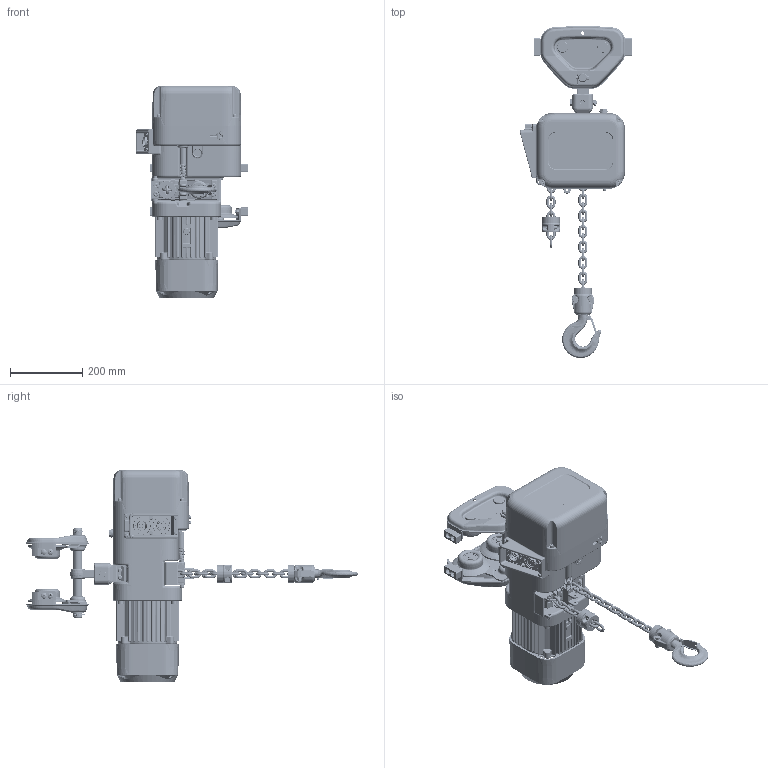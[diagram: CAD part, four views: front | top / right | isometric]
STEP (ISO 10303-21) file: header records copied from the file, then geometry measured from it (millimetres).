
FILE_DESCRIPTION (( 'STEP AP214' ), '1' );
FILE_NAME ('NER2P010L.STEP', '2026-08-04T17:58:20', ( '' ), ( '' ), 'SwSTEP 2.0', 'SolidWorks 2026', '' );
FILE_SCHEMA (( 'AUTOMOTIVE_DESIGN' ));
Length unit declared in the file: millimetre
Products named in the file (71): T7GA0109141; T7AB101010; ER2DS9103; T6G800010P; T7GB004010; J1WS011-20080_Rectangular section spring washer BS 4464 - 16 (Type B); ER2CS9186; 9012711_9012711; M6F554010; PTS2010 SO1753951_5" WITH EXTENDED BUMPERS; T6GA0109113; ER2DS9101; ER1CS9032; 9091296_9091296; T7GA0105112; ER1DS1041; ER2DS9015; J1BG10604040_J1BG10604040; 9009423_9009423; ER2BHM10S9A5; ES127005S; ER2DS9337; T7G117010; ER2DL9105; ER2DS9104_ER2DS9104; MS561010; ER2CS9107_ER2CS9107; ER2DS9338; ER1BS9135; LCER2010NP (SHAPED); J1BY9-0803022_B18.2.3.1M - Hex cap screw, M8 x 1.25 x 30 --30C; T6GA0109103; ER2DS1002; M8 X 30 MACHINE SCREW_M8 X 30 MACHINE SCREW; T7GA0109142; ER2DS9331; ER2CS9357; ER1DS9053; J1BG10601212_B18.3.1M - 6 x 1.0 x 12 Hex SHCS -- 12CHX; LCER2010NP_18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
Assembly tree (153 placements, depth 4):
  NER2P010L
    ER2DS9104_ER2DS9104
    ER2DS9101
    ER2DS9103
    ER2DS1011
      ER2DS2015
        ER2DS9015  x2
        J1BY9-0803022_B18.2.3.1M - Hex cap screw, M8 x 1.25 x 30 --30C  x2
        J1WS011-20080_Rectangular section spring washer BS 4464 - 16 (Type B)  x2
        J1NA001-20080_B18.2.4.1M - Hex nut, Style 1,  M8 x 1.25 --D-C  x2
      ER2DS9011
      ER2DS1002
    ER2DS9331
    ER2DS9337
    ER2DS9338
    ER2CS9357
    ER2CS9121  x2
    ER1DS9053  x2
    ER1DS1041
    ER2CS9186
    ER2CS9123
    LCER2010NP_18
      LCER2010NP  x18
    ER2CS9511
    ER2CS2564
    ER2CS2523
    ES127005S
    ER1BS9135
    E3S112003  x2
    E3S111003  x2
    9091296_9091296  x4
    J1BG10601212_B18.3.1M - 6 x 1.0 x 12 Hex SHCS -- 12CHX
    9012711_9012711  x4
    9091274_9091274  x4
    MS561010  x6
    ES558003  x8
    LCER2010NP (SHAPED)
      LCER2010NP  x11
    ER1BS9535
    M6F554010  x2
    ER2BHM10S9A5
    ER2DL9105
    ER2CS9107_ER2CS9107
    9091234_B18.3.1M - 5 x 0.8 x 45 Hex SHCS -- 22CHX  x4
    J1BG10604040_J1BG10604040  x4
    ER2CS9027
    ER1CS9032
    L3183008_L3183008
    9009414-5_9009414-5
    T7GB004010
    PTS2010 SO1753951_5" WITH EXTENDED BUMPERS
      T7GA0105112  x2
        T6GA0109112
        T7GA0109141
        T7GA0109142
        T6GA0109113
        T6GA0109103
      T6G5102010  x4
        T6GA0109101
        6302Z BEARING
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Bounding box: 309.49 x 920.8 x 589 mm (x, y, z)
Volume: 14621435.1 mm3; surface area: 2005301.5 mm2
Topology: 182 solids, 203 shells, 9176 faces, 23686 edges, 15055 vertices
Faces by surface type: plane 3527, cylinder 3015, torus 1127, cone 680, bspline 653, sphere 174
Entity records: 219404 total; most frequent: CARTESIAN_POINT 73865, ORIENTED_EDGE 29914, DIRECTION 29431, EDGE_CURVE 14959, AXIS2_PLACEMENT_3D 11271, VERTEX_POINT 9659, LINE 6889, VECTOR 6889
